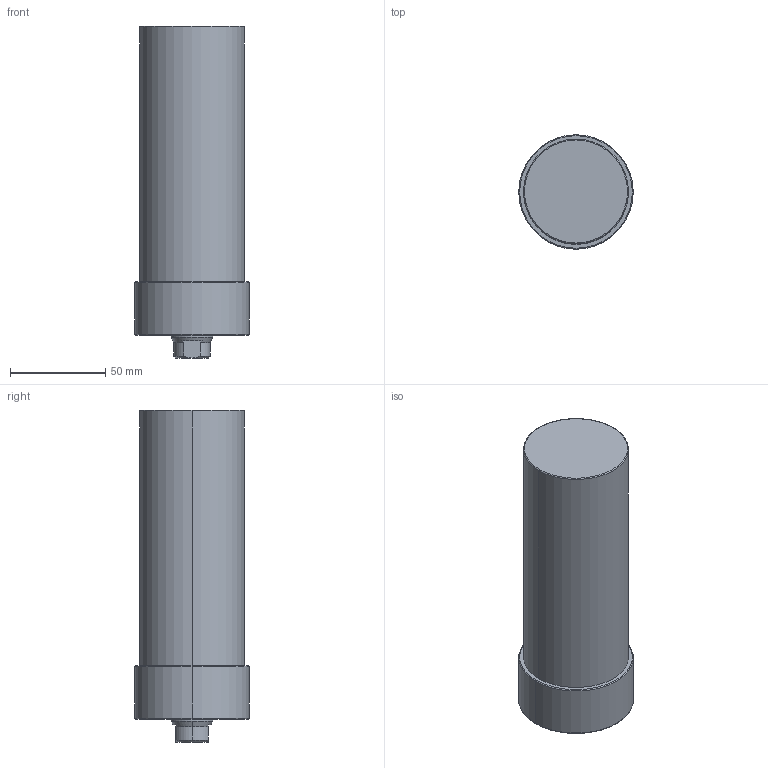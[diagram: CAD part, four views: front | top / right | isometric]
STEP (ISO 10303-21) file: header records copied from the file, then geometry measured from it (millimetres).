
FILE_DESCRIPTION (( 'STEP AP203' ), '1' );
FILE_NAME ('CLLU-055GA-105.STEP', '2020-01-06T07:07:06', ( '' ), ( '' ), 'SwSTEP 2.0', 'SolidWorks 2015', '' );
FILE_SCHEMA (( 'CONFIG_CONTROL_DESIGN' ));
Length unit declared in the file: millimetre
Products named in the file (1): CLLU-055GA-105
Bounding box: 60 x 60 x 174 mm (x, y, z)
Volume: 397862.2 mm3; surface area: 36476.2 mm2
Topology: 1 solids, 1 shells, 64 faces, 143 edges, 80 vertices
Faces by surface type: cone 25, cylinder 23, plane 10, torus 6
Entity records: 1805 total; most frequent: DIRECTION 330, CARTESIAN_POINT 318, ORIENTED_EDGE 266, AXIS2_PLACEMENT_3D 140, EDGE_CURVE 133, VERTEX_POINT 80, CIRCLE 75, EDGE_LOOP 73
